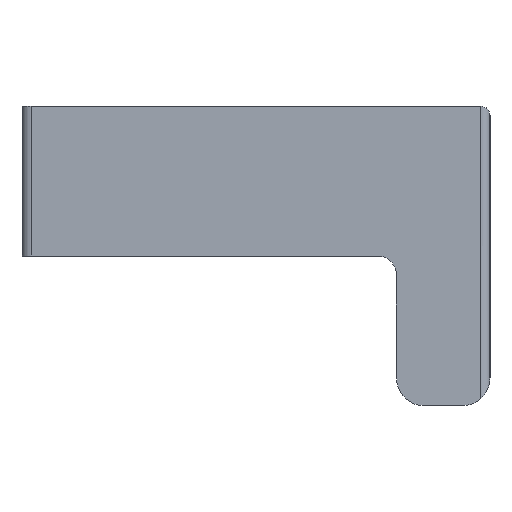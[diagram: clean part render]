
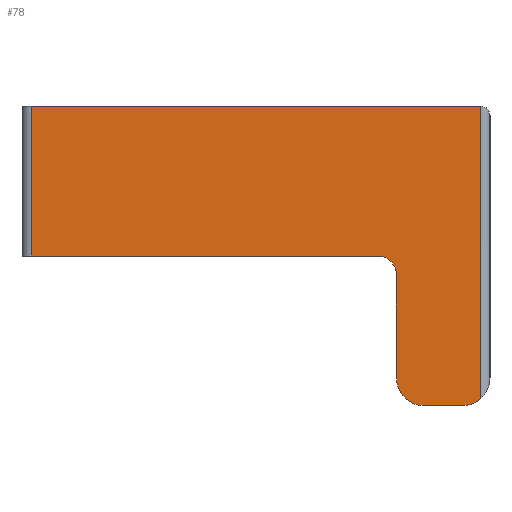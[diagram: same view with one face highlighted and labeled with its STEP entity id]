
A CAD part, left-side view. The second image highlights one B-rep face of the part: STEP entity #78.
In plain terms, the highlighted planar face has unit normal (-1, 0, 0).
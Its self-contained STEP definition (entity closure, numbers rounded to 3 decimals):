
#78 = ADVANCED_FACE( '', ( #156 ), #157, .F. );
#156 = FACE_OUTER_BOUND( '', #227, .T. );
#157 = PLANE( '', #228 );
#227 = EDGE_LOOP( '', ( #376, #377, #378, #379, #380, #381, #382, #383, #384 ) );
#228 = AXIS2_PLACEMENT_3D( '', #385, #386, #387 );
#376 = ORIENTED_EDGE( '', *, *, #422, .T. );
#377 = ORIENTED_EDGE( '', *, *, #459, .F. );
#378 = ORIENTED_EDGE( '', *, *, #453, .T. );
#379 = ORIENTED_EDGE( '', *, *, #464, .F. );
#380 = ORIENTED_EDGE( '', *, *, #405, .F. );
#381 = ORIENTED_EDGE( '', *, *, #461, .F. );
#382 = ORIENTED_EDGE( '', *, *, #448, .F. );
#383 = ORIENTED_EDGE( '', *, *, #465, .F. );
#384 = ORIENTED_EDGE( '', *, *, #412, .F. );
#385 = CARTESIAN_POINT( '', ( -7.5, -24.5, 3.5 ) );
#386 = DIRECTION( '', ( 1., 0., 0. ) );
#387 = DIRECTION( '', ( 0., 0., -1. ) );
#405 = EDGE_CURVE( '', #469, #470, #471, .T. );
#412 = EDGE_CURVE( '', #481, #483, #484, .T. );
#422 = EDGE_CURVE( '', #481, #498, #500, .T. );
#448 = EDGE_CURVE( '', #536, #538, #539, .T. );
#453 = EDGE_CURVE( '', #544, #545, #546, .T. );
#459 = EDGE_CURVE( '', #544, #498, #553, .T. );
#461 = EDGE_CURVE( '', #538, #469, #555, .T. );
#464 = EDGE_CURVE( '', #470, #545, #558, .T. );
#465 = EDGE_CURVE( '', #483, #536, #559, .T. );
#469 = VERTEX_POINT( '', #563 );
#470 = VERTEX_POINT( '', #564 );
#471 = CIRCLE( '', #565, 1.5 );
#481 = VERTEX_POINT( '', #578 );
#483 = VERTEX_POINT( '', #580 );
#484 = LINE( '', #581, #582 );
#498 = VERTEX_POINT( '', #599 );
#500 = LINE( '', #601, #602 );
#536 = VERTEX_POINT( '', #656 );
#538 = VERTEX_POINT( '', #665 );
#539 = CIRCLE( '', #666, 1.5 );
#544 = VERTEX_POINT( '', #672 );
#545 = VERTEX_POINT( '', #673 );
#546 = CIRCLE( '', #674, 1. );
#553 = LINE( '', #683, #684 );
#555 = LINE( '', #686, #687 );
#558 = LINE( '', #690, #691 );
#559 = LINE( '', #692, #693 );
#563 = CARTESIAN_POINT( '', ( -7.5, -21.5, -12. ) );
#564 = CARTESIAN_POINT( '', ( -7.5, -20., -10.5 ) );
#565 = AXIS2_PLACEMENT_3D( '', #696, #697, #698 );
#578 = CARTESIAN_POINT( '', ( -7.5, -0.5, 4. ) );
#580 = CARTESIAN_POINT( '', ( -7.5, -24.5, 4. ) );
#581 = CARTESIAN_POINT( '', ( -7.5, 0., 4. ) );
#582 = VECTOR( '', #708, 1000. );
#599 = CARTESIAN_POINT( '', ( -7.5, -0.5, -4. ) );
#601 = CARTESIAN_POINT( '', ( -7.5, -0.5, 20. ) );
#602 = VECTOR( '', #724, 1000. );
#656 = CARTESIAN_POINT( '', ( -7.5, -24.5, -11.618 ) );
#665 = CARTESIAN_POINT( '', ( -7.5, -23.5, -12. ) );
#666 = AXIS2_PLACEMENT_3D( '', #751, #752, #753 );
#672 = CARTESIAN_POINT( '', ( -7.5, -19., -4. ) );
#673 = CARTESIAN_POINT( '', ( -7.5, -20., -5. ) );
#674 = AXIS2_PLACEMENT_3D( '', #758, #759, #760 );
#683 = CARTESIAN_POINT( '', ( -7.5, -19., -4. ) );
#684 = VECTOR( '', #766, 1000. );
#686 = CARTESIAN_POINT( '', ( -7.5, -23.5, -12. ) );
#687 = VECTOR( '', #767, 1000. );
#690 = CARTESIAN_POINT( '', ( -7.5, -20., -10.5 ) );
#691 = VECTOR( '', #768, 1000. );
#692 = CARTESIAN_POINT( '', ( -7.5, -24.5, 20. ) );
#693 = VECTOR( '', #769, 1000. );
#696 = CARTESIAN_POINT( '', ( -7.5, -21.5, -10.5 ) );
#697 = DIRECTION( '', ( 1., 0., 0. ) );
#698 = DIRECTION( '', ( 0., 0., -1. ) );
#708 = DIRECTION( '', ( 0., -1., 0. ) );
#724 = DIRECTION( '', ( 0., 0., -1. ) );
#751 = CARTESIAN_POINT( '', ( -7.5, -23.5, -10.5 ) );
#752 = DIRECTION( '', ( 1., 0., 0. ) );
#753 = DIRECTION( '', ( 0., 0., -1. ) );
#758 = CARTESIAN_POINT( '', ( -7.5, -19., -5. ) );
#759 = DIRECTION( '', ( 1., 0., 0. ) );
#760 = DIRECTION( '', ( 0., 0., -1. ) );
#766 = DIRECTION( '', ( 0., 1., 0. ) );
#767 = DIRECTION( '', ( 0., 1., 0. ) );
#768 = DIRECTION( '', ( 0., 0., 1. ) );
#769 = DIRECTION( '', ( 0., 0., -1. ) );
